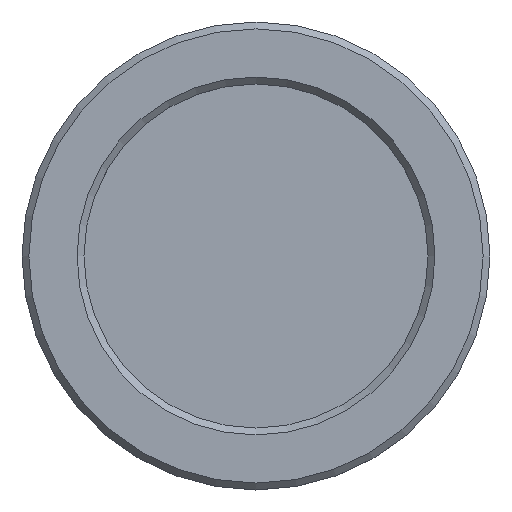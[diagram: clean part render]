
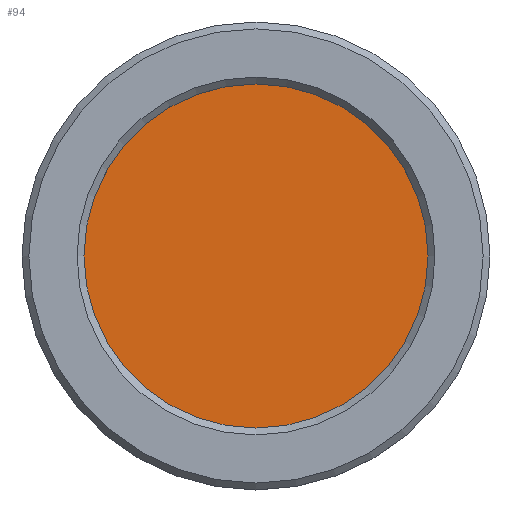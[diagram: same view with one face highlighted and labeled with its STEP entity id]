
A CAD part, top view. The second image highlights one B-rep face of the part: STEP entity #94.
In plain terms, the highlighted planar face has unit normal (0, 0, 1).
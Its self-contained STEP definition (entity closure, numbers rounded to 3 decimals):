
#71=FACE_OUTER_BOUND('',#162,.T.);
#94=ADVANCED_FACE('',(#71),#111,.F.);
#111=PLANE('',#299);
#162=EDGE_LOOP('',(#200));
#200=ORIENTED_EDGE('',*,*,#256,.F.);
#236=VERTEX_POINT('',#483);
#256=EDGE_CURVE('',#236,#236,#274,.T.);
#274=CIRCLE('',#298,12.5);
#298=AXIS2_PLACEMENT_3D('',#482,#351,#352);
#299=AXIS2_PLACEMENT_3D('',#484,#353,#354);
#351=DIRECTION('',(0.,0.,-1.));
#352=DIRECTION('',(-1.,0.,0.));
#353=DIRECTION('',(0.,0.,-1.));
#354=DIRECTION('',(-1.,0.,0.));
#482=CARTESIAN_POINT('',(0.,0.,16.5));
#483=CARTESIAN_POINT('',(-12.5,0.,16.5));
#484=CARTESIAN_POINT('',(0.,0.,16.5));
